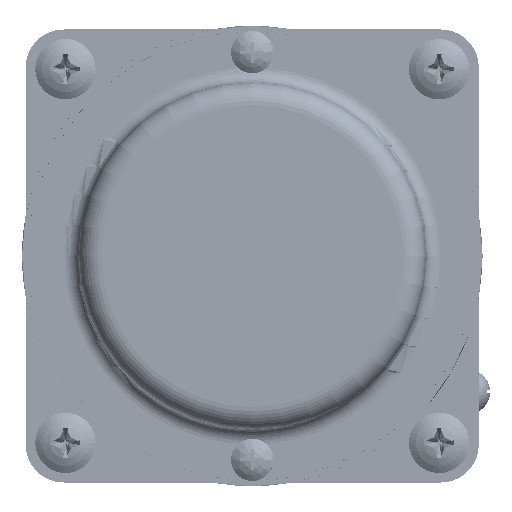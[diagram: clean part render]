
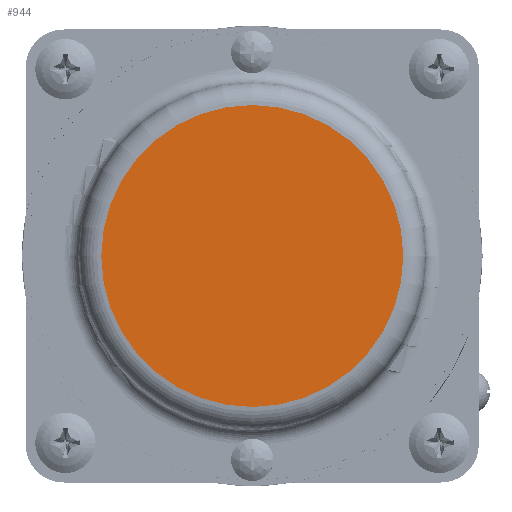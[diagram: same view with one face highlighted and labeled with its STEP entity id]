
A CAD part, left-side view. The second image highlights one B-rep face of the part: STEP entity #944.
In plain terms, the highlighted planar face has unit normal (-1, 0, 0).
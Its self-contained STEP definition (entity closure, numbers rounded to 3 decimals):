
#501=PLANE('',#5577);
#944=ADVANCED_FACE('',(#1282),#501,.T.);
#1282=FACE_OUTER_BOUND('',#1627,.T.);
#1627=EDGE_LOOP('',(#3118));
#1934=CIRCLE('',#5576,20.);
#3118=ORIENTED_EDGE('',*,*,#4616,.T.);
#4004=VERTEX_POINT('',#60103);
#4616=EDGE_CURVE('',#4004,#4004,#1934,.T.);
#5576=AXIS2_PLACEMENT_3D('',#60102,#6375,#6376);
#5577=AXIS2_PLACEMENT_3D('',#60104,#6377,#6378);
#6375=DIRECTION('',(-1.,0.,0.));
#6376=DIRECTION('',(0.,-1.,0.));
#6377=DIRECTION('',(-1.,0.,0.));
#6378=DIRECTION('',(0.,-1.,0.));
#60102=CARTESIAN_POINT('',(-86.,0.,0.));
#60103=CARTESIAN_POINT('',(-86.,-20.,0.));
#60104=CARTESIAN_POINT('',(-86.,0.,0.));
